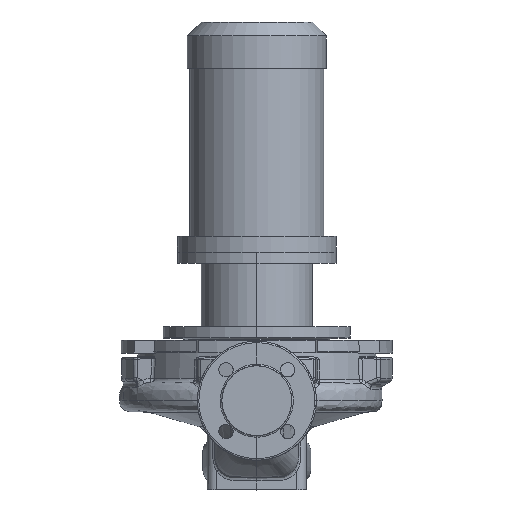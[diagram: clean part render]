
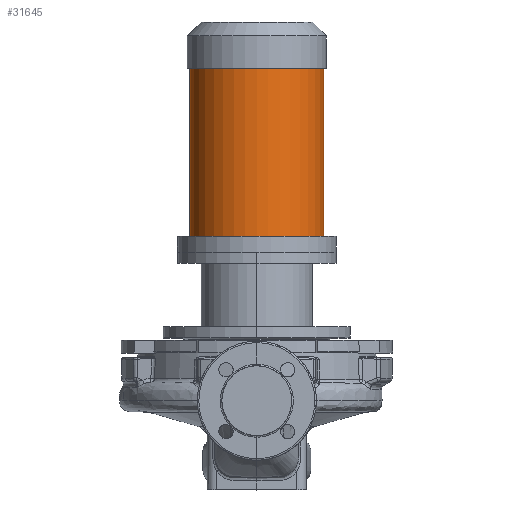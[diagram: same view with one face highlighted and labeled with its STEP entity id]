
A CAD part, top view. The second image highlights one B-rep face of the part: STEP entity #31645.
In plain terms, the highlighted cylindrical face has radius 84.5 mm (diameter 169 mm), a partial arc.
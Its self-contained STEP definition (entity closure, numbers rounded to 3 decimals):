
#4551 = AXIS2_PLACEMENT_3D ( 'NONE', #60760, #44703, #11608 ) ;
#6801 = DIRECTION ( 'NONE',  ( -1., 0., 0. ) ) ;
#7405 = FACE_OUTER_BOUND ( 'NONE', #64159, .T. ) ;
#8125 = CYLINDRICAL_SURFACE ( 'NONE', #9766, 84.5 ) ;
#9167 = DIRECTION ( 'NONE',  ( 0., -1., 0. ) ) ;
#9766 = AXIS2_PLACEMENT_3D ( 'NONE', #22327, #21838, #65831 ) ;
#11608 = DIRECTION ( 'NONE',  ( -1., 0., 0. ) ) ;
#12369 = LINE ( 'NONE', #32300, #57184 ) ;
#17673 = DIRECTION ( 'NONE',  ( 0., -1., 0. ) ) ;
#19790 = CARTESIAN_POINT ( 'NONE',  ( 84.5, 187.3, 0. ) ) ;
#20057 = CARTESIAN_POINT ( 'NONE',  ( -84.5, 419.3, 0. ) ) ;
#21072 = EDGE_CURVE ( 'NONE', #37029, #64861, #12369, .T. ) ;
#21838 = DIRECTION ( 'NONE',  ( 0., -1., 0. ) ) ;
#22327 = CARTESIAN_POINT ( 'NONE',  ( 0., 187.3, 0. ) ) ;
#31645 = ADVANCED_FACE ( 'NONE', ( #7405 ), #8125, .T. ) ;
#32300 = CARTESIAN_POINT ( 'NONE',  ( -84.5, 187.3, 0. ) ) ;
#36962 = ORIENTED_EDGE ( 'NONE', *, *, #67605, .F. ) ;
#36964 = CARTESIAN_POINT ( 'NONE',  ( 84.5, 207.3, 0. ) ) ;
#37029 = VERTEX_POINT ( 'NONE', #20057 ) ;
#39237 = CARTESIAN_POINT ( 'NONE',  ( 0., 207.3, 0. ) ) ;
#42932 = VECTOR ( 'NONE', #9167, 1000. ) ;
#44667 = VERTEX_POINT ( 'NONE', #48632 ) ;
#44703 = DIRECTION ( 'NONE',  ( 0., -1., 0. ) ) ;
#46145 = ORIENTED_EDGE ( 'NONE', *, *, #59126, .F. ) ;
#48632 = CARTESIAN_POINT ( 'NONE',  ( 84.5, 419.3, 0. ) ) ;
#48786 = LINE ( 'NONE', #19790, #42932 ) ;
#49942 = CARTESIAN_POINT ( 'NONE',  ( -84.5, 207.3, 0. ) ) ;
#50326 = CIRCLE ( 'NONE', #57175, 84.5 ) ;
#51676 = ORIENTED_EDGE ( 'NONE', *, *, #57413, .T. ) ;
#53222 = ORIENTED_EDGE ( 'NONE', *, *, #21072, .T. ) ;
#53972 = DIRECTION ( 'NONE',  ( 0., -1., 0. ) ) ;
#57175 = AXIS2_PLACEMENT_3D ( 'NONE', #39237, #17673, #6801 ) ;
#57184 = VECTOR ( 'NONE', #53972, 1000. ) ;
#57413 = EDGE_CURVE ( 'NONE', #44667, #37029, #68180, .T. ) ;
#58819 = VERTEX_POINT ( 'NONE', #36964 ) ;
#59126 = EDGE_CURVE ( 'NONE', #44667, #58819, #48786, .T. ) ;
#60760 = CARTESIAN_POINT ( 'NONE',  ( 0., 419.3, 0. ) ) ;
#64159 = EDGE_LOOP ( 'NONE', ( #46145, #51676, #53222, #36962 ) ) ;
#64861 = VERTEX_POINT ( 'NONE', #49942 ) ;
#65831 = DIRECTION ( 'NONE',  ( -1., 0., 0. ) ) ;
#67605 = EDGE_CURVE ( 'NONE', #58819, #64861, #50326, .T. ) ;
#68180 = CIRCLE ( 'NONE', #4551, 84.5 ) ;
